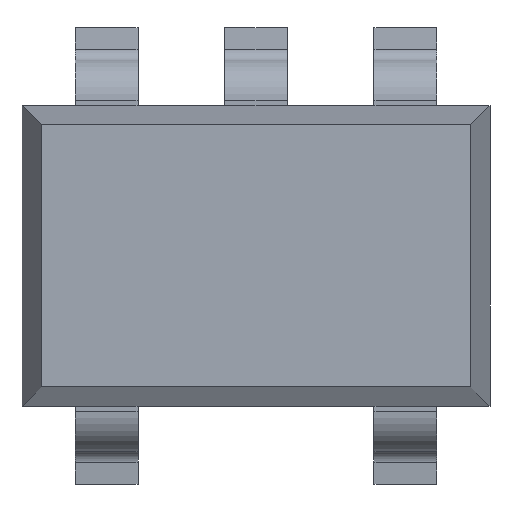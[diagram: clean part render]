
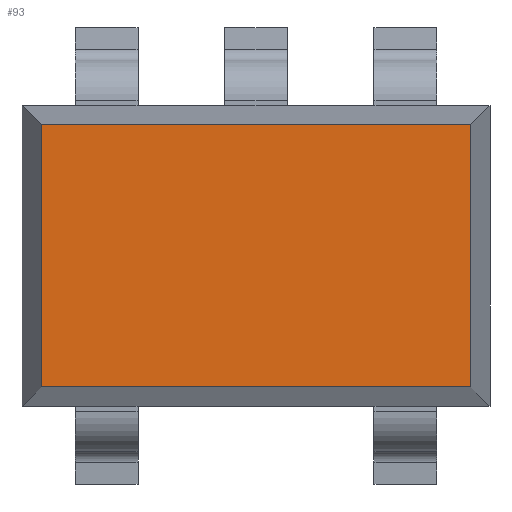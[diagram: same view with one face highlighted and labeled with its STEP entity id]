
A CAD part, top view. The second image highlights one B-rep face of the part: STEP entity #93.
In plain terms, the highlighted planar face has unit normal (0, 0, 1).
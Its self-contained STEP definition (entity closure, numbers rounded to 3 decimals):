
#4 = CARTESIAN_POINT ( 'NONE',  ( 2.072, 4.85, 6.751 ) ) ;
#90 = DIRECTION ( 'NONE',  ( 1., 0., 0. ) ) ;
#93 = ADVANCED_FACE ( 'Defeatured_0_22', ( #1909 ), #2198, .T. ) ;
#101 = VECTOR ( 'NONE', #90, 1000. ) ;
#373 = CARTESIAN_POINT ( 'NONE',  ( 2.072, 3.182, 6.751 ) ) ;
#535 = ORIENTED_EDGE ( 'NONE', *, *, #711, .T. ) ;
#603 = LINE ( 'NONE', #2052, #101 ) ;
#611 = CARTESIAN_POINT ( 'NONE',  ( 3.438, 4.016, 6.751 ) ) ;
#699 = VECTOR ( 'NONE', #795, 1000. ) ;
#711 = EDGE_CURVE ( 'Defeatured_0_22+Defeatured_0_18+Defeatured_0_21+Defeatured_0_19', #2485, #2307, #2300, .T. ) ;
#750 = VERTEX_POINT ( 'NONE', #4 ) ;
#751 = DIRECTION ( 'NONE',  ( 0., 1., 0. ) ) ;
#795 = DIRECTION ( 'NONE',  ( 0., -1., 0. ) ) ;
#846 = DIRECTION ( 'NONE',  ( -1., 0., 0. ) ) ;
#868 = CARTESIAN_POINT ( 'NONE',  ( 1.951, 4.85, 6.751 ) ) ;
#1002 = DIRECTION ( 'NONE',  ( 0., 0., 1. ) ) ;
#1112 = ORIENTED_EDGE ( 'NONE', *, *, #2450, .T. ) ;
#1227 = CARTESIAN_POINT ( 'NONE',  ( 4.805, 4.85, 6.751 ) ) ;
#1242 = ORIENTED_EDGE ( 'NONE', *, *, #1522, .T. ) ;
#1271 = CARTESIAN_POINT ( 'NONE',  ( 4.805, 3.182, 6.751 ) ) ;
#1304 = AXIS2_PLACEMENT_3D ( 'NONE', #611, #1002, #1611 ) ;
#1416 = VERTEX_POINT ( 'NONE', #373 ) ;
#1522 = EDGE_CURVE ( 'Defeatured_0_22+Defeatured_0_20+Defeatured_0_19+Defeatured_0_21', #750, #1416, #2147, .T. ) ;
#1611 = DIRECTION ( 'NONE',  ( 1., 0., 0. ) ) ;
#1718 = LINE ( 'NONE', #868, #2303 ) ;
#1776 = VECTOR ( 'NONE', #751, 1000. ) ;
#1800 = EDGE_CURVE ( 'Defeatured_0_22+Defeatured_0_21+Defeatured_0_20+Defeatured_0_18', #1416, #2485, #603, .T. ) ;
#1909 = FACE_OUTER_BOUND ( 'NONE', #2161, .T. ) ;
#2052 = CARTESIAN_POINT ( 'NONE',  ( 1.951, 3.182, 6.751 ) ) ;
#2073 = ORIENTED_EDGE ( 'NONE', *, *, #1800, .T. ) ;
#2147 = LINE ( 'NONE', #2355, #699 ) ;
#2161 = EDGE_LOOP ( 'NONE', ( #535, #1112, #1242, #2073 ) ) ;
#2198 = PLANE ( 'NONE',  #1304 ) ;
#2300 = LINE ( 'NONE', #2328, #1776 ) ;
#2303 = VECTOR ( 'NONE', #846, 1000. ) ;
#2307 = VERTEX_POINT ( 'NONE', #1227 ) ;
#2328 = CARTESIAN_POINT ( 'NONE',  ( 4.805, 4.971, 6.751 ) ) ;
#2355 = CARTESIAN_POINT ( 'NONE',  ( 2.072, 4.971, 6.751 ) ) ;
#2450 = EDGE_CURVE ( 'Defeatured_0_22+Defeatured_0_19+Defeatured_0_18+Defeatured_0_20', #2307, #750, #1718, .T. ) ;
#2485 = VERTEX_POINT ( 'NONE', #1271 ) ;
